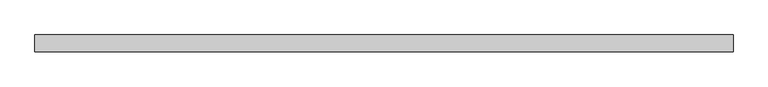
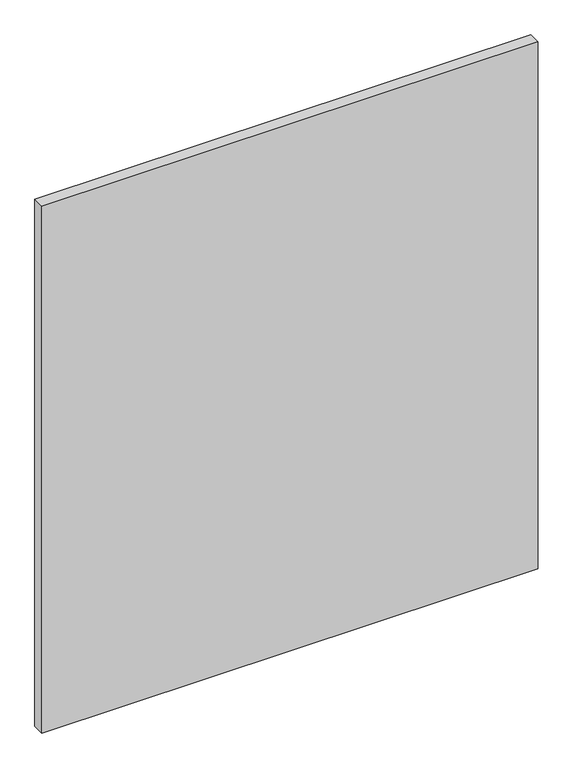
"""IFC4 building model written with IfcOpenShell, lengths in millimetres: plate geometry, Системная панель : С остеклением."""

import ifcopenshell
import ifcopenshell.guid

model = None  # the IFC model being written
_history = None  # IfcOwnerHistory: only IFC2X3 demands one
_inside = {}  # id of a spatial element -> (the spatial element, [elements in it])
_under = {}  # id of a project, library or spatial element -> (it, [spatial elements below it])
_declared = {}  # id of a project -> (the project, [libraries it declares])
_typed = {}  # id of a type object -> (the type object, [elements of that type])
_made_of = {}  # id of a material, layer set ... -> (it, [elements and type objects made of it])


def new_model(schema):
    """Start an empty IFC model of exactly this schema.

    Asked for "IFC4X3", IfcOpenShell would pick the latest addendum, in which some entities
    have other attributes; the version numbers below select the first issue.
    IFC2X3 requires an IfcOwnerHistory on every rooted entity: one is made here for all.
    """
    global model, _history
    if schema == "IFC4X3":
        model = ifcopenshell.file(schema_version=(4, 3, 0, 0))
    else:
        model = ifcopenshell.file(schema=schema)
    _inside.clear()
    _under.clear()
    _declared.clear()
    _typed.clear()
    _made_of.clear()
    _history = None
    if model.schema == "IFC2X3":
        org = make("IfcOrganization", Name="unknown")
        user = make(
            "IfcPersonAndOrganization",
            ThePerson=make("IfcPerson", FamilyName="unknown"),
            TheOrganization=org,
        )
        app = make(
            "IfcApplication",
            ApplicationDeveloper=org,
            Version="unknown",
            ApplicationFullName="unknown",
            ApplicationIdentifier="unknown",
        )
        _history = make(
            "IfcOwnerHistory",
            OwningUser=user,
            OwningApplication=app,
            ChangeAction="ADDED",
            CreationDate=0,
        )
    return model


def make(cls, **values):
    """One entity of the class cls with the attributes given. An attribute that is None is left unset."""
    return model.create_entity(
        cls, **{name: value for name, value in values.items() if value is not None}
    )


def rooted(cls, **values):
    """An entity with a GlobalId (a new one), such as an element, a storey or a relation."""
    return make(cls, GlobalId=ifcopenshell.guid.new(), OwnerHistory=_history, **values)


def si_unit(unit_type, name, prefix=None):
    """IfcSIUnit, for example si_unit("LENGTHUNIT", "METRE", prefix="MILLI")."""
    return make("IfcSIUnit", UnitType=unit_type, Prefix=prefix, Name=name)


def assignment(units):
    """IfcUnitAssignment: the units of a project."""
    return None if units is None else make("IfcUnitAssignment", Units=units)


def point(xyz):
    """IfcCartesianPoint."""
    return None if xyz is None else make("IfcCartesianPoint", Coordinates=xyz)


def direction(xyz):
    """IfcDirection."""
    return None if xyz is None else make("IfcDirection", DirectionRatios=xyz)


def frame(location, z_axis=None, x_axis=None):
    """IfcAxis2Placement3D, a coordinate frame: its origin and axes. An axis left out is left unset."""
    return make(
        "IfcAxis2Placement3D",
        Location=point(location),
        Axis=direction(z_axis),
        RefDirection=direction(x_axis),
    )


def origin():
    """The frame at (0, 0, 0) with its axes left unset."""
    return frame((0.0, 0.0, 0.0))


def origin_with_axes():
    """The frame at (0, 0, 0) with the z axis (0, 0, 1) and the x axis (1, 0, 0) written out."""
    return frame((0.0, 0.0, 0.0), z_axis=(0.0, 0.0, 1.0), x_axis=(1.0, 0.0, 0.0))


def place(relative_to, where):
    """IfcLocalPlacement: puts the frame where relative to a parent placement (None: the world)."""
    return make(
        "IfcLocalPlacement", PlacementRelTo=relative_to, RelativePlacement=where
    )


def context(
    kind, dimensions, precision=None, world=None, true_north=None, identifier=None
):
    """IfcGeometricRepresentationContext, for example the 3D "Model" context."""
    return make(
        "IfcGeometricRepresentationContext",
        ContextIdentifier=identifier,
        ContextType=kind,
        CoordinateSpaceDimension=dimensions,
        Precision=precision,
        WorldCoordinateSystem=world,
        TrueNorth=true_north,
    )


def project(units=None, contexts=None):
    """IfcProject with its units and contexts."""
    return rooted(
        "IfcProject",
        Name="project",
        RepresentationContexts=contexts,
        UnitsInContext=assignment(units),
    )


def spatial(cls, under=None, at=None, **own):
    """A site, building, storey or space (cls), placed at a placement, below another one or the project."""
    s = rooted(cls, ObjectPlacement=at, **own)
    if under is not None:
        _under.setdefault(under.id(), (under, []))[1].append(s)
    return s


def polyline(points):
    """IfcPolyline through the points."""
    return make("IfcPolyline", Points=[point(p) for p in points])


def outline(outer, holes=None, kind="AREA"):
    """IfcArbitraryClosedProfileDef: a profile drawn as a closed curve; with holes, ...WithVoids."""
    if holes is None:
        return make("IfcArbitraryClosedProfileDef", ProfileType=kind, OuterCurve=outer)
    return make(
        "IfcArbitraryProfileDefWithVoids",
        ProfileType=kind,
        OuterCurve=outer,
        InnerCurves=holes,
    )


def extrude(swept, where, along, depth):
    """IfcExtrudedAreaSolid: the profile swept, set in the frame where, extruded along a direction by depth."""
    return make(
        "IfcExtrudedAreaSolid",
        SweptArea=swept,
        Position=where,
        ExtrudedDirection=direction(along),
        Depth=depth,
    )


def shape(context_of_items, identifier, shape_type, items):
    """IfcShapeRepresentation: the items that make up one representation, for example the "Body"."""
    return make(
        "IfcShapeRepresentation",
        ContextOfItems=context_of_items,
        RepresentationIdentifier=identifier,
        RepresentationType=shape_type,
        Items=items,
    )


def source(mapping_origin, context_of_items, identifier, shape_type, items):
    """IfcRepresentationMap: a shape defined once, which mapped items show again and again."""
    return make(
        "IfcRepresentationMap",
        MappingOrigin=mapping_origin,
        MappedRepresentation=shape(context_of_items, identifier, shape_type, items),
    )


def transform(
    local_origin,
    x_axis=None,
    y_axis=None,
    z_axis=None,
    scale=None,
    scale2=None,
    scale3=None,
    uniform=True,
):
    """IfcCartesianTransformationOperator3D, or its non-uniform kind. x_axis, y_axis, z_axis: its Axis1, 2, 3."""
    if uniform:
        return make(
            "IfcCartesianTransformationOperator3D",
            Axis1=direction(x_axis),
            Axis2=direction(y_axis),
            LocalOrigin=point(local_origin),
            Scale=scale,
            Axis3=direction(z_axis),
        )
    return make(
        "IfcCartesianTransformationOperator3DnonUniform",
        Axis1=direction(x_axis),
        Axis2=direction(y_axis),
        LocalOrigin=point(local_origin),
        Scale=scale,
        Axis3=direction(z_axis),
        Scale2=scale2,
        Scale3=scale3,
    )


def mapped(mapping_source, mapping_target):
    """IfcMappedItem: shows the shape of a source again, moved by a transform."""
    return make(
        "IfcMappedItem", MappingSource=mapping_source, MappingTarget=mapping_target
    )


def made_of(thing, what):
    """Note that an element or type object is made of a material, layer set ...; save() writes the relation."""
    if what is not None:
        _made_of.setdefault(what.id(), (what, []))[1].append(thing)
    return thing


def element(
    cls,
    number,
    at=None,
    inside=None,
    cuts=None,
    type_object=None,
    material=None,
    context=None,
    identifier="Body",
    shape_type=None,
    held_by="IfcProductDefinitionShape",
    body=None,
    shapes=None,
    **own,
):
    """One element of the class cls, such as IfcWall. Its Tag is "e" and its number.

    at: its placement. inside: the storey or other place that contains it. cuts: it is an
    opening in that element (IfcRelVoidsElement). A single representation is given by context,
    identifier, shape_type and body (its items); several are given by shapes. held_by: the class
    of the entity that holds the representations. save() writes the other relations.
    """
    e = rooted(cls, Tag="e%d" % number, ObjectPlacement=at, **own)
    if body is not None:
        shapes = [shape(context, identifier, shape_type, body)]
    if shapes is not None:
        e.Representation = make(held_by, Representations=shapes)
    if inside is not None:
        _inside.setdefault(inside.id(), (inside, []))[1].append(e)
    if cuts is not None:
        rooted(
            "IfcRelVoidsElement", RelatingBuildingElement=cuts, RelatedOpeningElement=e
        )
    if type_object is not None:
        _typed.setdefault(type_object.id(), (type_object, []))[1].append(e)
    return made_of(e, material)


def aggregate(whole, parts):
    """IfcRelAggregates: a whole, such as a stair, and the parts it consists of."""
    return rooted("IfcRelAggregates", RelatingObject=whole, RelatedObjects=parts)


def save(model, path):
    """Write the relations noted so far, then the file.

    IfcRelAggregates (storeys below a building ...), IfcRelContainedInSpatialStructure (elements
    in a storey), IfcRelDefinesByType, IfcRelAssociatesMaterial and IfcRelDeclares: one each for
    every whole, place, type object, material and project.
    """
    for whole, parts in _under.values():
        aggregate(whole, parts)
    for where, things in _inside.values():
        rooted(
            "IfcRelContainedInSpatialStructure",
            RelatedElements=things,
            RelatingStructure=where,
        )
    for kind, things in _typed.values():
        rooted("IfcRelDefinesByType", RelatedObjects=things, RelatingType=kind)
    for what, things in _made_of.values():
        rooted("IfcRelAssociatesMaterial", RelatedObjects=things, RelatingMaterial=what)
    for by, libraries in _declared.values():
        rooted("IfcRelDeclares", RelatingContext=by, RelatedDefinitions=libraries)
    model.write(path)


def plate_4467079a(model_context):
    return source(origin(), model_context, "Body", "SweptSolid", [
        extrude(outline(polyline([(512.6517207, 24.5), (-512.6517207, 24.5), (-512.6517207, 49.5), (512.6517207, 49.5), (512.6517207, 24.5)])), origin_with_axes(), (0.0, 0.0, 1.0), 1150.0),
    ])


if __name__ == "__main__":
    model = new_model("IFC4")
    model_context = context("Model", 3, world=origin())
    ifc_project = project(units=[si_unit("LENGTHUNIT", "METRE", prefix="MILLI")], contexts=[model_context])
    site = spatial("IfcSite", under=ifc_project)
    building = spatial("IfcBuilding", under=site)
    placement = place(None, origin())
    plate_shape = plate_4467079a(model_context)
    element("IfcPlate", 1, ObjectType="Системная панель : С остеклением", at=placement, inside=building, context=model_context, shape_type="MappedRepresentation", body=[
        mapped(plate_shape, transform((0.0, 0.0, 0.0), x_axis=(1.0, 0.0, 0.0), y_axis=(0.0, 1.0, 0.0), z_axis=(0.0, 0.0, 1.0))),
    ])
    save(model, "model.ifc")
